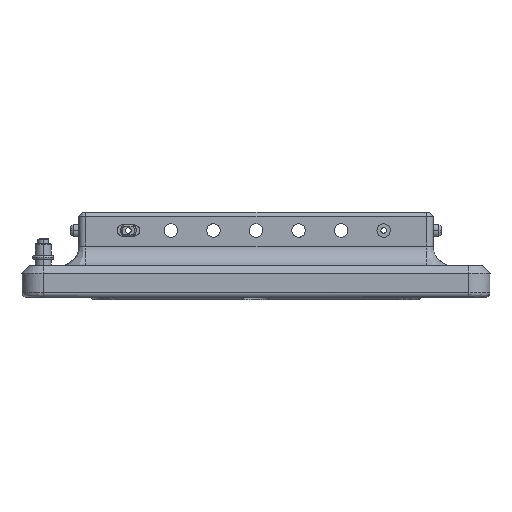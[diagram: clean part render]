
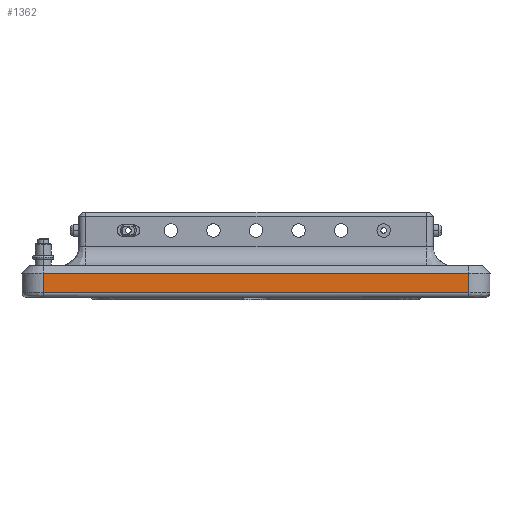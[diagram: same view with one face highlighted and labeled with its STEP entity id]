
A CAD part, left-side view. The second image highlights one B-rep face of the part: STEP entity #1362.
In plain terms, the highlighted planar face has unit normal (-1, 0, 0).
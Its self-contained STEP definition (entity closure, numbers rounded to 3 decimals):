
#1362=ADVANCED_FACE('Hauptk\X2\00F6\X0\rper ( _SOL218471 - wsp _MASTER -  )',(#3080),#3081,.F.);
#3080=FACE_OUTER_BOUND('',#5606,.T.);
#3081=PLANE('',#5607);
#5606=EDGE_LOOP('',(#10315,#10316,#10317,#10318));
#5607=AXIS2_PLACEMENT_3D('',#10319,#10320,#10321);
#10315=ORIENTED_EDGE('',*,*,#13641,.F.);
#10316=ORIENTED_EDGE('',*,*,#13388,.F.);
#10317=ORIENTED_EDGE('',*,*,#13639,.T.);
#10318=ORIENTED_EDGE('',*,*,#13642,.F.);
#10319=CARTESIAN_POINT('',(-240.0,150.0,24.0));
#10320=DIRECTION('',(1.0,-0.0,0.0));
#10321=DIRECTION('',(0.0,0.0,-1.0));
#13388=EDGE_CURVE('',#16124,#16128,#16129,.T.);
#13639=EDGE_CURVE('',#16124,#16421,#16423,.T.);
#13641=EDGE_CURVE('',#16128,#16425,#16426,.T.);
#13642=EDGE_CURVE('',#16425,#16421,#16427,.T.);
#16124=VERTEX_POINT('',#25372);
#16128=VERTEX_POINT('',#25386);
#16129=B_SPLINE_CURVE_WITH_KNOTS('',1,(#25387,#25388),.UNSPECIFIED.,.F.,.F.,(2,2),(0.002,30.003),.UNSPECIFIED.);
#16421=VERTEX_POINT('',#27189);
#16423=B_SPLINE_CURVE_WITH_KNOTS('',1,(#27200,#27201),.UNSPECIFIED.,.F.,.F.,(2,2),(0.,1.0),.UNSPECIFIED.);
#16425=VERTEX_POINT('',#27203);
#16426=B_SPLINE_CURVE_WITH_KNOTS('',1,(#27204,#27205),.UNSPECIFIED.,.F.,.F.,(2,2),(0.,1.0),.UNSPECIFIED.);
#16427=B_SPLINE_CURVE_WITH_KNOTS('',1,(#27206,#27207),.UNSPECIFIED.,.F.,.F.,(2,2),(0.0,1.),.UNSPECIFIED.);
#25372=CARTESIAN_POINT('',(-240.,150.,19.));
#25386=CARTESIAN_POINT('',(-240.0,-150.,19.));
#25387=CARTESIAN_POINT('',(-240.0,150.,19.));
#25388=CARTESIAN_POINT('',(-240.0,-150.,19.));
#27189=CARTESIAN_POINT('',(-240.0,150.,5.0));
#27200=CARTESIAN_POINT('',(-240.0,150.,19.));
#27201=CARTESIAN_POINT('',(-240.0,150.,5.0));
#27203=CARTESIAN_POINT('',(-240.0,-150.0,5.0));
#27204=CARTESIAN_POINT('',(-240.0,-150.0,19.));
#27205=CARTESIAN_POINT('',(-240.0,-150.0,5.0));
#27206=CARTESIAN_POINT('',(-240.0,-150.0,5.0));
#27207=CARTESIAN_POINT('',(-240.0,150.,5.0));
